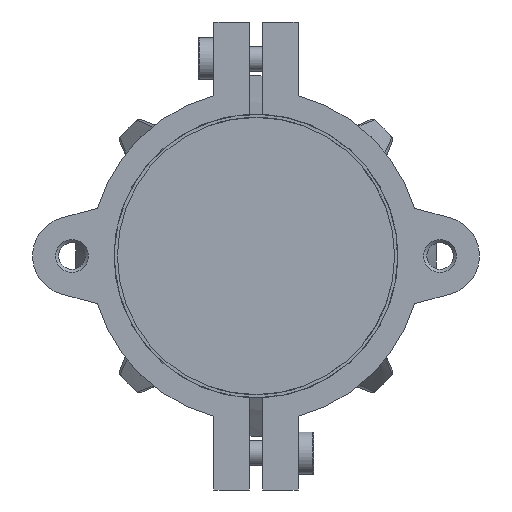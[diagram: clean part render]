
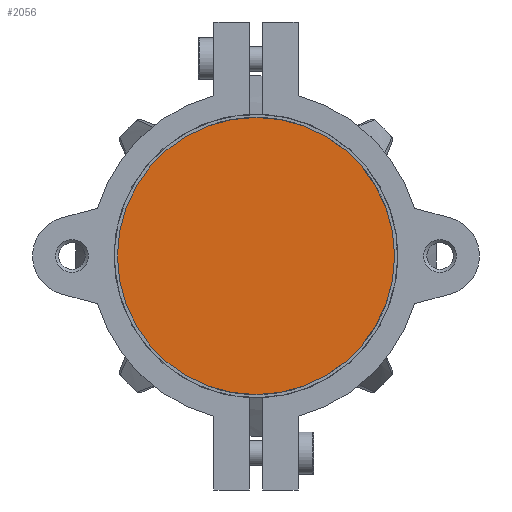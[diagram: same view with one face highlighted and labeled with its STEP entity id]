
A CAD part, left-side view. The second image highlights one B-rep face of the part: STEP entity #2056.
In plain terms, the highlighted planar face has unit normal (-1, 0, 0).
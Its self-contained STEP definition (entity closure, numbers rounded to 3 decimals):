
#1273=PLANE('',#9787);
#1602=FACE_OUTER_BOUND('',#3008,.T.);
#2056=ADVANCED_FACE('',(#1602),#1273,.T.);
#2659=CIRCLE('',#9786,26.765);
#3008=EDGE_LOOP('',(#4421));
#4421=ORIENTED_EDGE('',*,*,#7661,.F.);
#6826=VERTEX_POINT('',#12116);
#7661=EDGE_CURVE('',#6826,#6826,#2659,.T.);
#9786=AXIS2_PLACEMENT_3D('',#12115,#10421,#10422);
#9787=AXIS2_PLACEMENT_3D('',#12117,#10423,#10424);
#10421=DIRECTION('',(1.,0.,0.));
#10422=DIRECTION('',(0.,0.,-1.));
#10423=DIRECTION('',(-1.,0.,0.));
#10424=DIRECTION('',(0.,0.,1.));
#12115=CARTESIAN_POINT('',(0.,0.,0.));
#12116=CARTESIAN_POINT('',(0.,0.,-26.765));
#12117=CARTESIAN_POINT('',(0.,0.,0.));
